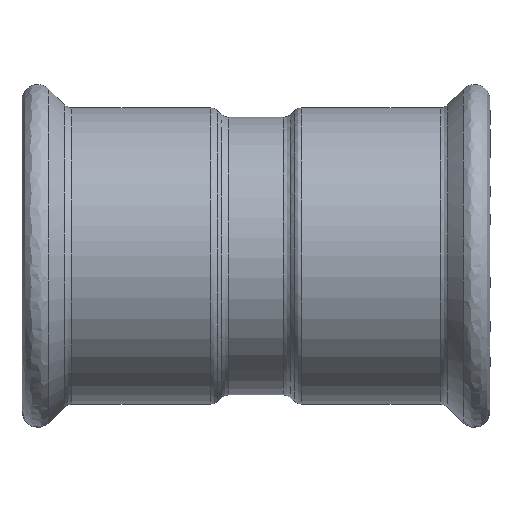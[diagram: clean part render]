
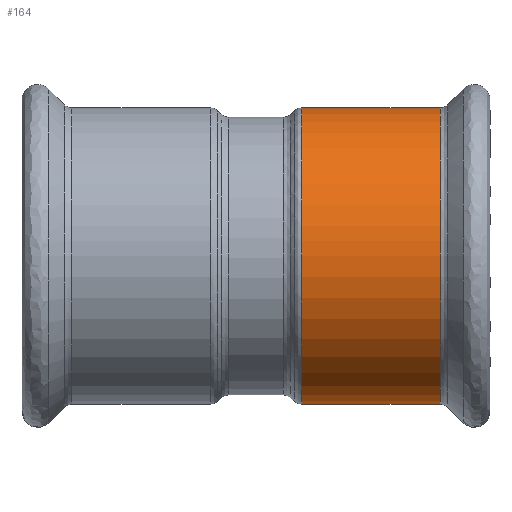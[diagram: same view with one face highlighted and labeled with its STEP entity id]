
A CAD part, front view. The second image highlights one B-rep face of the part: STEP entity #164.
In plain terms, the highlighted free-form (B-spline) face has degree [1, 2] with [2, 9] control points.
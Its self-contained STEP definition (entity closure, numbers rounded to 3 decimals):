
#42 = VERTEX_POINT('',#43);
#43 = CARTESIAN_POINT('',(53.767,0.,28.5));
#49 = EDGE_CURVE('',#50,#42,#52,.T.);
#50 = VERTEX_POINT('',#51);
#51 = CARTESIAN_POINT('',(53.767,28.5,0.));
#52 = ( BOUNDED_CURVE() B_SPLINE_CURVE(2,(#53,#54,#55),.UNSPECIFIED.,.F.
,.F.) B_SPLINE_CURVE_WITH_KNOTS((3,3),(-3.142,-1.571),
.PIECEWISE_BEZIER_KNOTS.) CURVE() GEOMETRIC_REPRESENTATION_ITEM() 
RATIONAL_B_SPLINE_CURVE((1.,0.707,1.)) REPRESENTATION_ITEM('') 
  );
#53 = CARTESIAN_POINT('',(53.767,28.5,0.));
#54 = CARTESIAN_POINT('',(53.767,28.5,28.5));
#55 = CARTESIAN_POINT('',(53.767,0.,28.5));
#57 = EDGE_CURVE('',#58,#50,#60,.T.);
#58 = VERTEX_POINT('',#59);
#59 = CARTESIAN_POINT('',(53.767,-28.5,0.));
#60 = ( BOUNDED_CURVE() B_SPLINE_CURVE(2,(#61,#62,#63,#64,#65),
.UNSPECIFIED.,.F.,.F.) B_SPLINE_CURVE_WITH_KNOTS((3,2,3),(
    0.,1.571,3.142),.UNSPECIFIED.) 
CURVE() GEOMETRIC_REPRESENTATION_ITEM() RATIONAL_B_SPLINE_CURVE((1.,
0.707,1.,0.707,1.)) REPRESENTATION_ITEM('') );
#61 = CARTESIAN_POINT('',(53.767,-28.5,0.));
#62 = CARTESIAN_POINT('',(53.767,-28.5,-28.5));
#63 = CARTESIAN_POINT('',(53.767,0.,-28.5));
#64 = CARTESIAN_POINT('',(53.767,28.5,-28.5));
#65 = CARTESIAN_POINT('',(53.767,28.5,0.));
#67 = EDGE_CURVE('',#42,#58,#68,.T.);
#68 = ( BOUNDED_CURVE() B_SPLINE_CURVE(2,(#69,#70,#71),.UNSPECIFIED.,.F.
,.F.) B_SPLINE_CURVE_WITH_KNOTS((3,3),(-1.571,
0.),.PIECEWISE_BEZIER_KNOTS.) CURVE() 
GEOMETRIC_REPRESENTATION_ITEM() RATIONAL_B_SPLINE_CURVE((1.,
0.707,1.)) REPRESENTATION_ITEM('') );
#69 = CARTESIAN_POINT('',(53.767,0.,28.5));
#70 = CARTESIAN_POINT('',(53.767,-28.5,28.5));
#71 = CARTESIAN_POINT('',(53.767,-28.5,0.));
#164 = ADVANCED_FACE('',(#165),#202,.T.);
#165 = FACE_BOUND('',#166,.T.);
#166 = EDGE_LOOP('',(#167,#168,#169,#176,#184,#192,#200,#201));
#167 = ORIENTED_EDGE('',*,*,#49,.T.);
#168 = ORIENTED_EDGE('',*,*,#67,.T.);
#169 = ORIENTED_EDGE('',*,*,#170,.T.);
#170 = EDGE_CURVE('',#58,#171,#173,.T.);
#171 = VERTEX_POINT('',#172);
#172 = CARTESIAN_POINT('',(80.429,-28.5,0.));
#173 = B_SPLINE_CURVE_WITH_KNOTS('',1,(#174,#175),.UNSPECIFIED.,.F.,.F.,
  (2,2),(-0.454,0.481),.PIECEWISE_BEZIER_KNOTS.);
#174 = CARTESIAN_POINT('',(53.767,-28.5,0.));
#175 = CARTESIAN_POINT('',(80.429,-28.5,0.));
#176 = ORIENTED_EDGE('',*,*,#177,.F.);
#177 = EDGE_CURVE('',#178,#171,#180,.T.);
#178 = VERTEX_POINT('',#179);
#179 = CARTESIAN_POINT('',(80.429,0.,28.5));
#180 = ( BOUNDED_CURVE() B_SPLINE_CURVE(2,(#181,#182,#183),
.UNSPECIFIED.,.F.,.F.) B_SPLINE_CURVE_WITH_KNOTS((3,3),(1.571,
3.142),.PIECEWISE_BEZIER_KNOTS.) CURVE() 
GEOMETRIC_REPRESENTATION_ITEM() RATIONAL_B_SPLINE_CURVE((1.,
0.707,1.)) REPRESENTATION_ITEM('') );
#181 = CARTESIAN_POINT('',(80.429,0.,28.5));
#182 = CARTESIAN_POINT('',(80.429,-28.5,28.5));
#183 = CARTESIAN_POINT('',(80.429,-28.5,0.));
#184 = ORIENTED_EDGE('',*,*,#185,.F.);
#185 = EDGE_CURVE('',#186,#178,#188,.T.);
#186 = VERTEX_POINT('',#187);
#187 = CARTESIAN_POINT('',(80.429,28.5,0.));
#188 = ( BOUNDED_CURVE() B_SPLINE_CURVE(2,(#189,#190,#191),
.UNSPECIFIED.,.F.,.F.) B_SPLINE_CURVE_WITH_KNOTS((3,3),(0.,
1.571),.PIECEWISE_BEZIER_KNOTS.) CURVE() 
GEOMETRIC_REPRESENTATION_ITEM() RATIONAL_B_SPLINE_CURVE((1.,
0.707,1.)) REPRESENTATION_ITEM('') );
#189 = CARTESIAN_POINT('',(80.429,28.5,0.));
#190 = CARTESIAN_POINT('',(80.429,28.5,28.5));
#191 = CARTESIAN_POINT('',(80.429,0.,28.5));
#192 = ORIENTED_EDGE('',*,*,#193,.F.);
#193 = EDGE_CURVE('',#171,#186,#194,.T.);
#194 = ( BOUNDED_CURVE() B_SPLINE_CURVE(2,(#195,#196,#197,#198,#199),
.UNSPECIFIED.,.F.,.F.) B_SPLINE_CURVE_WITH_KNOTS((3,2,3),(3.142,
4.712,6.283),.PIECEWISE_BEZIER_KNOTS.) CURVE() 
GEOMETRIC_REPRESENTATION_ITEM() RATIONAL_B_SPLINE_CURVE((1.,
0.707,1.,0.707,1.)) REPRESENTATION_ITEM('') );
#195 = CARTESIAN_POINT('',(80.429,-28.5,0.));
#196 = CARTESIAN_POINT('',(80.429,-28.5,-28.5));
#197 = CARTESIAN_POINT('',(80.429,0.,-28.5));
#198 = CARTESIAN_POINT('',(80.429,28.5,-28.5));
#199 = CARTESIAN_POINT('',(80.429,28.5,0.));
#200 = ORIENTED_EDGE('',*,*,#170,.F.);
#201 = ORIENTED_EDGE('',*,*,#57,.T.);
#202 = ( BOUNDED_SURFACE() B_SPLINE_SURFACE(1,2,(
    (#203,#204,#205,#206,#207,#208,#209,#210,#211)
    ,(#212,#213,#214,#215,#216,#217,#218,#219,#220
)),.UNSPECIFIED.,.F.,.T.,.F.) B_SPLINE_SURFACE_WITH_KNOTS((2,2),(1,2,2,2
    ,2,2,1),(-0.481,0.454),(-4.712,
    -3.142,-1.571,0.,1.571,3.142,
4.712),.UNSPECIFIED.) GEOMETRIC_REPRESENTATION_ITEM() 
RATIONAL_B_SPLINE_SURFACE((
    (1.,0.707,1.,0.707,1.,0.707,1.
      ,0.707,1.)
    ,(1.,0.707,1.,0.707,1.,0.707,1.
,0.707,1.))) REPRESENTATION_ITEM('') SURFACE() );
#203 = CARTESIAN_POINT('',(80.429,-28.5,0.));
#204 = CARTESIAN_POINT('',(80.429,-28.5,-28.5));
#205 = CARTESIAN_POINT('',(80.429,0.,-28.5));
#206 = CARTESIAN_POINT('',(80.429,28.5,-28.5));
#207 = CARTESIAN_POINT('',(80.429,28.5,0.));
#208 = CARTESIAN_POINT('',(80.429,28.5,28.5));
#209 = CARTESIAN_POINT('',(80.429,0.,28.5));
#210 = CARTESIAN_POINT('',(80.429,-28.5,28.5));
#211 = CARTESIAN_POINT('',(80.429,-28.5,0.));
#212 = CARTESIAN_POINT('',(53.767,-28.5,0.));
#213 = CARTESIAN_POINT('',(53.767,-28.5,-28.5));
#214 = CARTESIAN_POINT('',(53.767,0.,-28.5));
#215 = CARTESIAN_POINT('',(53.767,28.5,-28.5));
#216 = CARTESIAN_POINT('',(53.767,28.5,0.));
#217 = CARTESIAN_POINT('',(53.767,28.5,28.5));
#218 = CARTESIAN_POINT('',(53.767,0.,28.5));
#219 = CARTESIAN_POINT('',(53.767,-28.5,28.5));
#220 = CARTESIAN_POINT('',(53.767,-28.5,0.));
